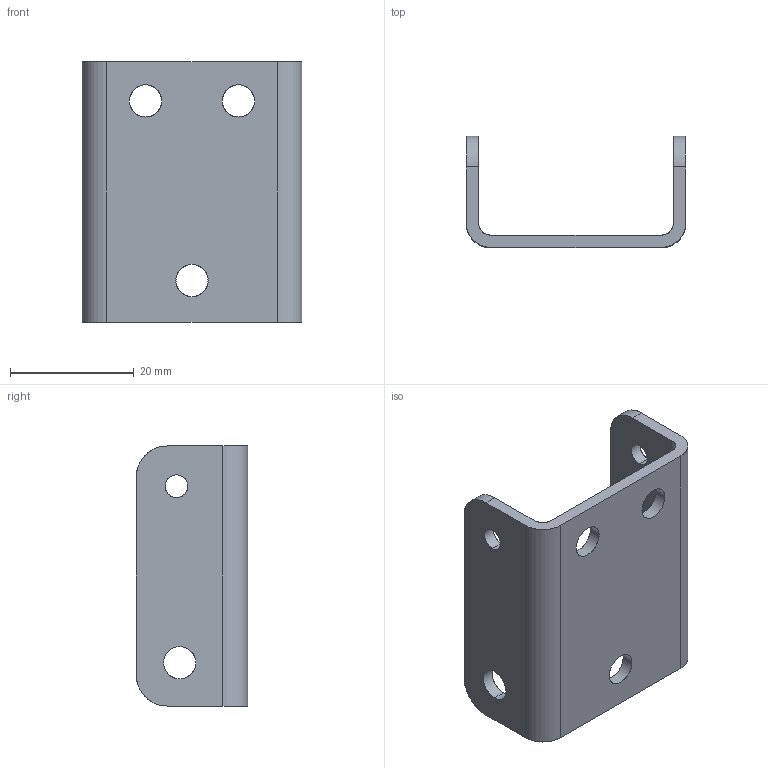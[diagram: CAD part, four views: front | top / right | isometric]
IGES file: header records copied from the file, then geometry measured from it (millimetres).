
Start section: SolidWorks IGES FILE using analytic representation for surfaces
Global section: file name: C:\Documents and Settings\brechard\Bureau\GE 84\84.020.00.IGS; native system: SolidWorks 2001Plus by SolidWorks Corporation; preprocessor: Version 5.3; author: brechard; date: 050126.111919; units: millimetre
Bounding box: 35.5 x 18 x 42 mm (x, y, z)
Surface area: 5776.3 mm2 (no closed solid volume)
Topology: 0 solids, 0 shells, 32 faces, 712 edges, 712 vertices
Faces by surface type: revolution 22, bspline 10
